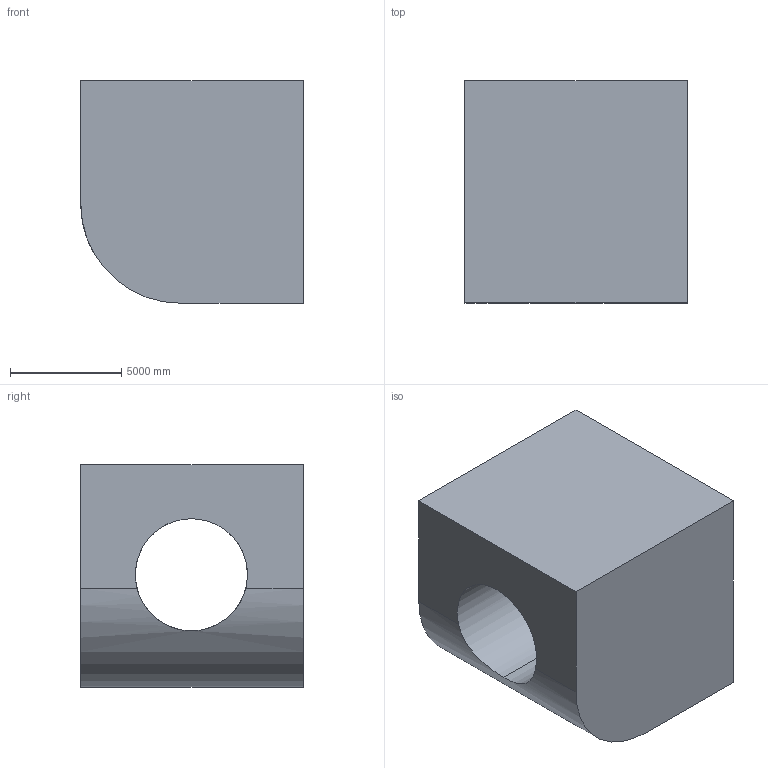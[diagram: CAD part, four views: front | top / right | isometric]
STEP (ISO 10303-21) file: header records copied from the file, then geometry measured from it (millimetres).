
FILE_DESCRIPTION (( 'STEP AP203' ), '1' );
FILE_NAME ('1000.STEP', '2022-08-18T12:22:23', ( 'user' ), ( '' ), 'SwSTEP 2.0', 'SolidWorks 2021', '' );
FILE_SCHEMA (( 'CONFIG_CONTROL_DESIGN' ));
Length unit declared in the file: centimetre
Products named in the file (1): 1000
Bounding box: 10000 x 10000 x 10000 mm (x, y, z)
Volume: 758371144538.3 mm3; surface area: 689185313.6 mm2
Topology: 1 solids, 1 shells, 9 faces, 24 edges, 16 vertices
Faces by surface type: plane 6, cylinder 3
Entity records: 524 total; most frequent: CARTESIAN_POINT 213, DIRECTION 48, ORIENTED_EDGE 48, EDGE_CURVE 24, VERTEX_POINT 16, AXIS2_PLACEMENT_3D 16, VECTOR 16, LINE 16
